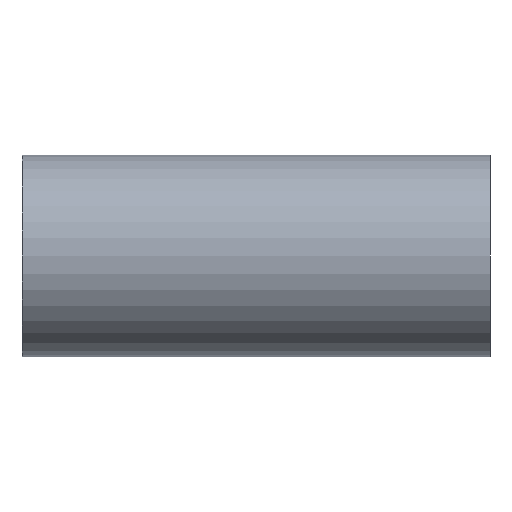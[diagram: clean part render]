
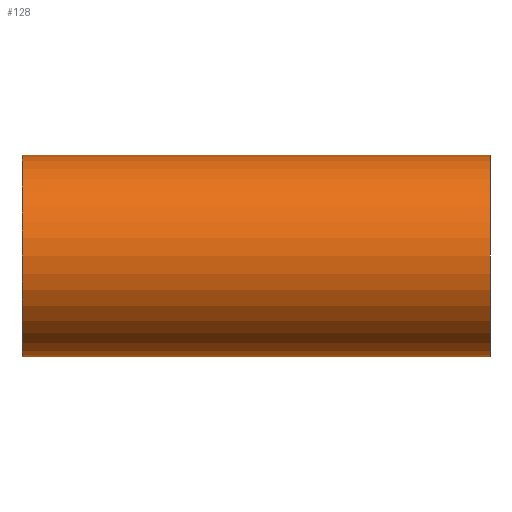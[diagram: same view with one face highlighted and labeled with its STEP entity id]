
A CAD part, front view. The second image highlights one B-rep face of the part: STEP entity #128.
In plain terms, the highlighted cylindrical face has radius 38.1 mm (diameter 76.2 mm), a partial arc.
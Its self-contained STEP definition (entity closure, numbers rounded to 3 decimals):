
#12 = VECTOR ( 'NONE', #262, 1000. ) ;
#19 = EDGE_CURVE ( 'NONE', #176, #179, #151, .T. ) ;
#48 = CARTESIAN_POINT ( 'NONE',  ( 88.4, 0., 38.1 ) ) ;
#94 = CARTESIAN_POINT ( 'NONE',  ( 196.163, 0., -38.1 ) ) ;
#106 = CARTESIAN_POINT ( 'NONE',  ( -88.4, 0., 0. ) ) ;
#109 = DIRECTION ( 'NONE',  ( 1., 0., 0. ) ) ;
#110 = DIRECTION ( 'NONE',  ( 0., 0., 1. ) ) ;
#119 = AXIS2_PLACEMENT_3D ( 'NONE', #106, #109, #110 ) ;
#128 = ADVANCED_FACE ( 'NONE', ( #129 ), #467, .T. ) ;
#129 = FACE_OUTER_BOUND ( 'NONE', #559, .T. ) ;
#138 = VERTEX_POINT ( 'NONE', #252 ) ;
#151 = LINE ( 'NONE', #94, #12 ) ;
#159 = CARTESIAN_POINT ( 'NONE',  ( 88.4, 0., -38.1 ) ) ;
#163 = DIRECTION ( 'NONE',  ( -1., 0., 0. ) ) ;
#175 = CARTESIAN_POINT ( 'NONE',  ( -88.4, 0., -38.1 ) ) ;
#176 = VERTEX_POINT ( 'NONE', #159 ) ;
#179 = VERTEX_POINT ( 'NONE', #175 ) ;
#182 = EDGE_CURVE ( 'NONE', #138, #179, #523, .T. ) ;
#212 = CIRCLE ( 'NONE', #290, 38.1 ) ;
#245 = DIRECTION ( 'NONE',  ( -1., 0., 0. ) ) ;
#252 = CARTESIAN_POINT ( 'NONE',  ( -88.4, 0., 38.1 ) ) ;
#262 = DIRECTION ( 'NONE',  ( -1., 0., 0. ) ) ;
#290 = AXIS2_PLACEMENT_3D ( 'NONE', #497, #586, #579 ) ;
#345 = ORIENTED_EDGE ( 'NONE', *, *, #364, .T. ) ;
#364 = EDGE_CURVE ( 'NONE', #176, #531, #212, .T. ) ;
#382 = DIRECTION ( 'NONE',  ( 0., 0., 1. ) ) ;
#444 = VECTOR ( 'NONE', #163, 1000. ) ;
#467 = CYLINDRICAL_SURFACE ( 'NONE', #522, 38.1 ) ;
#479 = CARTESIAN_POINT ( 'NONE',  ( 196.163, 0., 38.1 ) ) ;
#486 = ORIENTED_EDGE ( 'NONE', *, *, #563, .T. ) ;
#493 = ORIENTED_EDGE ( 'NONE', *, *, #19, .F. ) ;
#497 = CARTESIAN_POINT ( 'NONE',  ( 88.4, 0., 0. ) ) ;
#499 = CARTESIAN_POINT ( 'NONE',  ( 196.163, 0., 0. ) ) ;
#522 = AXIS2_PLACEMENT_3D ( 'NONE', #499, #245, #382 ) ;
#523 = CIRCLE ( 'NONE', #119, 38.1 ) ;
#531 = VERTEX_POINT ( 'NONE', #48 ) ;
#554 = LINE ( 'NONE', #479, #444 ) ;
#559 = EDGE_LOOP ( 'NONE', ( #493, #345, #486, #561 ) ) ;
#561 = ORIENTED_EDGE ( 'NONE', *, *, #182, .T. ) ;
#563 = EDGE_CURVE ( 'NONE', #531, #138, #554, .T. ) ;
#579 = DIRECTION ( 'NONE',  ( 0., 0., 1. ) ) ;
#586 = DIRECTION ( 'NONE',  ( -1., 0., 0. ) ) ;
